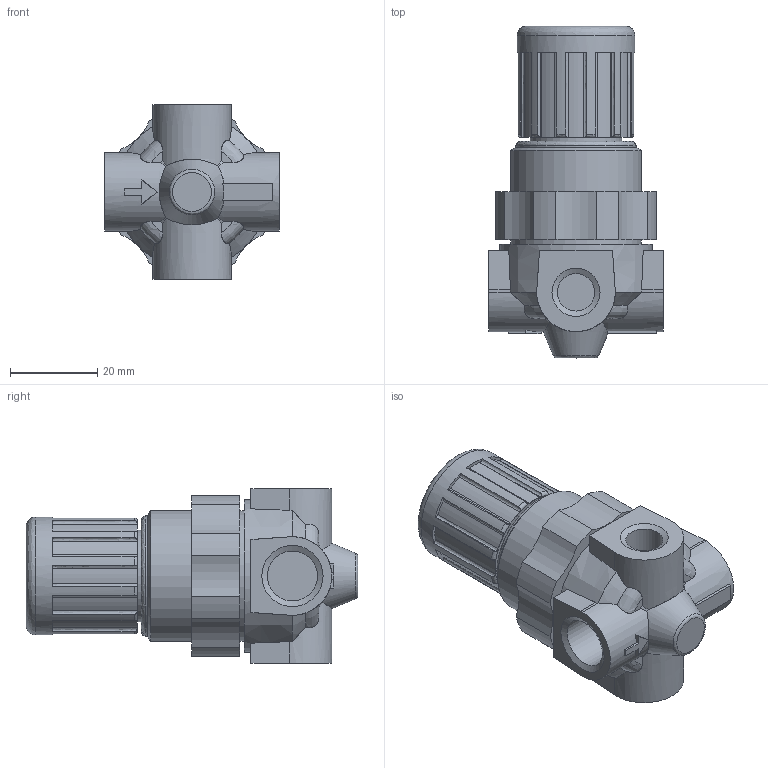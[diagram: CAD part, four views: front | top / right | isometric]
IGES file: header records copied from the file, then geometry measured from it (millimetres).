
Start section: Data from Parasolid IGES Translator 17.0.49, Copyright(c) 2006 Siemens P LM Software. All Rights Reserved.
Global section: file name: 9.1601.00.018_V.igs; native system: By Siemens PLM Incorporated; preprocessor: XPlus GENERIC/IGES 17.0.49; author: Noname; organization: Noname; date: 20160121.090232; units: millimetre
Bounding box: 40 x 76 x 40 mm (x, y, z)
Surface area: 12060.8 mm2 (no closed solid volume)
Topology: 0 solids, 0 shells, 165 faces, 886 edges, 857 vertices
Faces by surface type: revolution 102, extrusion 63
